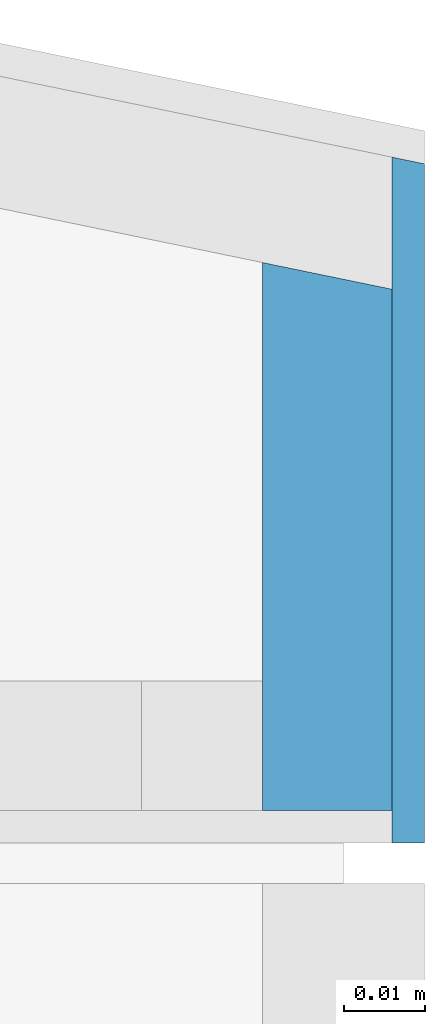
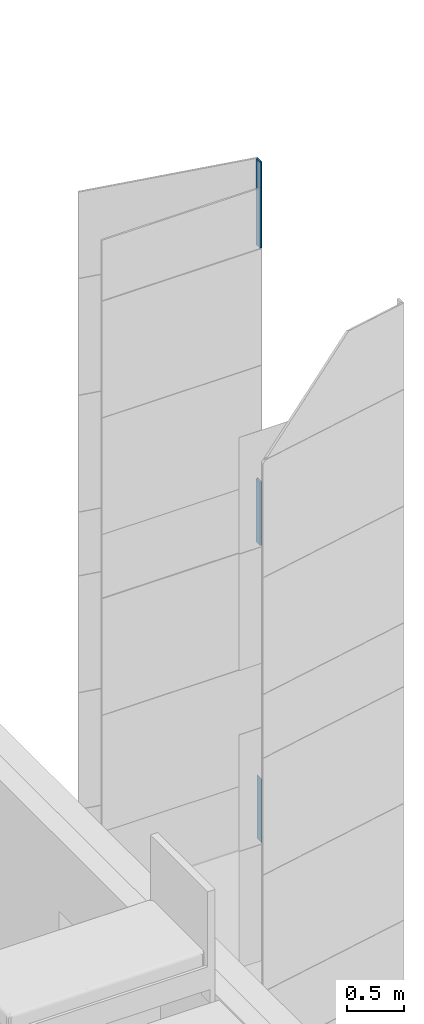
# One storey, part 32 of 125: 5 building element parts, 1 element without a shape of its own.
"""IFC2X3 building model written with IfcOpenShell, lengths in millimetres."""

from ifc_helpers import new_model, entity, si_unit, converted_unit, direction, frame, origin, place, context, subcontext, project, spatial, polyline, outline, extrude, material, type_object, element, aggregate, save


model = new_model("IFC2X3")

# Units and contexts
model_context = context("Model", 3, precision=0.01, world=origin(), true_north=direction((6.123233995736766e-17, 1.0)))
plan_context = context("Plan", 3, precision=0.01, world=origin(), true_north=direction((6.123233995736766e-17, 1.0)))
body_context = subcontext(model_context, "Body", "Model", "MODEL_VIEW")
ifc_project = project(units=[si_unit("LENGTHUNIT", "METRE", prefix="MILLI"), converted_unit("PLANEANGLEUNIT", "DEGREE", entity("IfcPlaneAngleMeasure", 0.017453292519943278), si_unit("PLANEANGLEUNIT", "RADIAN"), dimensions=[0, 0, 0, 0, 0, 0, 0]), si_unit("AREAUNIT", "SQUARE_METRE")], contexts=[model_context, plan_context])

# Site, building, storey
site_placement = place(None, origin())
site = spatial("IfcSite", under=ifc_project, at=site_placement, Name="Default", CompositionType="ELEMENT")
building_placement = place(site_placement, origin())
building = spatial("IfcBuilding", under=site, at=building_placement, CompositionType="ELEMENT")
storey_placement = place(building_placement, frame((0.0, 0.0, 3125.0)))
storey = spatial("IfcBuildingStorey", under=building, at=storey_placement, Name="2K", CompositionType="ELEMENT", Elevation=3125.0)

# Wall, building element parts
wall_type = type_object("IfcWallType", Name="Basic Wall:VS-komposiit", PredefinedType="STANDARD")
wall_placement = place(storey_placement, frame((18942.0, 5428.129167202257, -1010.0), z_axis=(0.0, 0.0, 1.0), x_axis=(0.0, -1.0, 0.0)))
wall = element("IfcWall", 1, at=wall_placement, inside=storey, type_object=wall_type, Name="Basic Wall:VS-komposiit", ObjectType="Basic Wall:VS-komposiit")
ifc_material_1 = material(Name="_K. Õhk. Roov. Fassaadikatte alusroov. Horisontaalne. 25 mm")
building_element_part_1_placement = place(wall_placement, origin())
building_element_part_1 = element("IfcBuildingElementPart", 2, at=building_element_part_1_placement, material=ifc_material_1, Name="Part", context=body_context, shape_type="SweptSolid", body=[
    extrude(outline(polyline([(-34.7128112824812, -8.0), (33.06294461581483, -8.0), (33.06294461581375, 8.0), (-31.41307794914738, 8.0), (-34.7128112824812, -8.0)])), frame((34.7128112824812, -2.0, 9757.49999999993)), (0.0, 0.0, 1.0), 917.5000000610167),
])
building_element_part_2_placement = place(wall_placement, origin())
building_element_part_2 = element("IfcBuildingElementPart", 3, at=building_element_part_2_placement, material=ifc_material_1, Name="Part", context=body_context, shape_type="SweptSolid", body=[
    extrude(outline(polyline([(-34.7128112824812, -8.0), (33.06294461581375, -8.0), (33.06294461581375, 8.0), (-31.413077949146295, 8.0), (-34.7128112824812, -8.0)])), frame((34.7128112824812, -2.0, 6587.499999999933)), (0.0, 0.0, 1.0), 674.999999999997),
])
ifc_material_2 = material(Name="_K. Välisviimistlus. Alumiinium-komposiitplaat")
building_element_part_3_placement = place(wall_placement, origin())
building_element_part_3 = element("IfcBuildingElementPart", 4, at=building_element_part_3_placement, material=ifc_material_2, Name="Part", context=body_context, shape_type="SweptSolid", body=[
    extrude(outline(polyline([(-42.61260185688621, -2.0), (42.20013519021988, -2.0), (42.20013519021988, 2.0), (-41.78766852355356, 2.0), (-42.61260185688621, -2.0)])), frame((29.575620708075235, 8.0, 3417.4999999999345)), (0.0, 0.0, 1.0), 674.999999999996),
])
building_element_part_4_placement = place(wall_placement, origin())
building_element_part_4 = element("IfcBuildingElementPart", 5, at=building_element_part_4_placement, material=ifc_material_2, Name="Part", context=body_context, shape_type="SweptSolid", body=[
    extrude(outline(polyline([(-42.61260185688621, -2.0), (42.20013519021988, -2.0), (42.20013519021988, 2.0), (-41.78766852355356, 2.0), (-42.61260185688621, -2.0)])), frame((29.575620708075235, 8.0, 9757.49999999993)), (0.0, 0.0, 1.0), 917.5000000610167),
])
building_element_part_5_placement = place(wall_placement, origin())
building_element_part_5 = element("IfcBuildingElementPart", 6, at=building_element_part_5_placement, material=ifc_material_2, Name="Part", context=body_context, shape_type="SweptSolid", body=[
    extrude(outline(polyline([(-42.61260185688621, -2.0), (42.20013519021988, -2.0), (42.20013519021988, 2.0), (-41.78766852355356, 2.0), (-42.61260185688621, -2.0)])), frame((29.575620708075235, 8.0, 6587.499999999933)), (0.0, 0.0, 1.0), 674.9999999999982),
])
aggregate(wall, [building_element_part_1, building_element_part_2, building_element_part_3, building_element_part_4, building_element_part_5])

save(model, "model.ifc")
